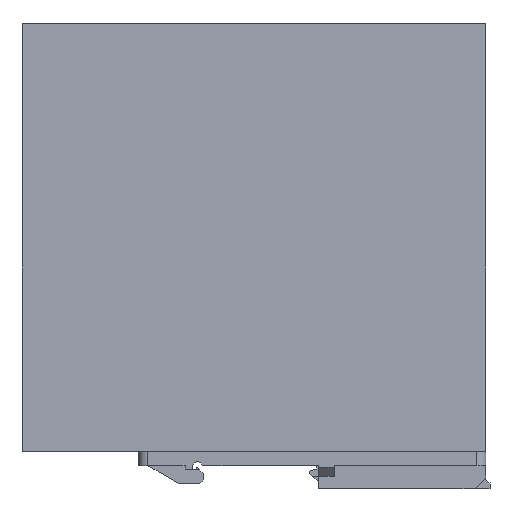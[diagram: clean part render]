
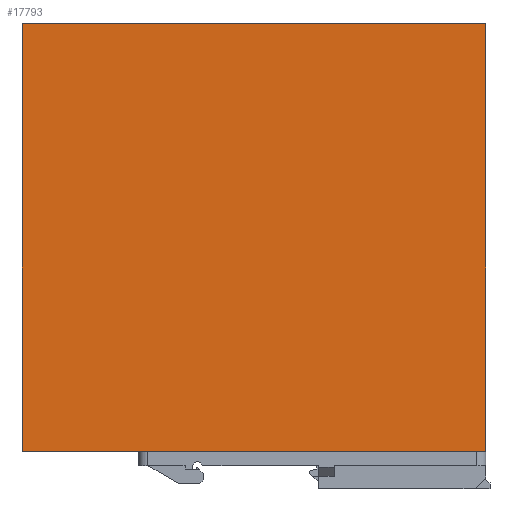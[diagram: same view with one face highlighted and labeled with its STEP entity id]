
A CAD part, left-side view. The second image highlights one B-rep face of the part: STEP entity #17793.
In plain terms, the highlighted planar face has unit normal (-1, 0, 0).
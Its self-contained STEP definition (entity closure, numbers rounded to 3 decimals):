
#17780=AXIS2_PLACEMENT_3D('Plane Axis2P3D',#17777,#17778,#17779) ;
#81=CARTESIAN_POINT('Vertex',(0.,131.2,130.35)) ;
#84=CARTESIAN_POINT('Line Origine',(0.,66.2,130.35)) ;
#88=CARTESIAN_POINT('Vertex',(0.,1.2,130.35)) ;
#211=CARTESIAN_POINT('Line Origine',(0.,1.2,70.4)) ;
#215=CARTESIAN_POINT('Vertex',(0.,1.2,10.45)) ;
#2385=CARTESIAN_POINT('Line Origine',(0.,66.2,10.45)) ;
#2389=CARTESIAN_POINT('Vertex',(0.,131.2,10.45)) ;
#17777=CARTESIAN_POINT('Axis2P3D Location',(0.,66.,-0.05)) ;
#17782=CARTESIAN_POINT('Line Origine',(0.,131.2,70.4)) ;
#85=DIRECTION('Vector Direction',(0.,-1.,0.)) ;
#212=DIRECTION('Vector Direction',(0.,0.,-1.)) ;
#2386=DIRECTION('Vector Direction',(0.,-1.,0.)) ;
#17778=DIRECTION('Axis2P3D Direction',(1.,0.,0.)) ;
#17779=DIRECTION('Axis2P3D XDirection',(0.,1.,0.)) ;
#17783=DIRECTION('Vector Direction',(0.,0.,1.)) ;
#86=VECTOR('Line Direction',#85,1.) ;
#213=VECTOR('Line Direction',#212,1.) ;
#2387=VECTOR('Line Direction',#2386,1.) ;
#17784=VECTOR('Line Direction',#17783,1.) ;
#17788=ORIENTED_EDGE('',*,*,#90,.T.) ;
#17789=ORIENTED_EDGE('',*,*,#17786,.F.) ;
#17790=ORIENTED_EDGE('',*,*,#2391,.F.) ;
#17791=ORIENTED_EDGE('',*,*,#217,.F.) ;
#17793=ADVANCED_FACE('STROMVERSORGUNG',(#17792),#17781,.F.) ;
#90=EDGE_CURVE('',#89,#82,#87,.F.) ;
#217=EDGE_CURVE('',#89,#216,#214,.T.) ;
#2391=EDGE_CURVE('',#216,#2390,#2388,.F.) ;
#17786=EDGE_CURVE('',#2390,#82,#17785,.T.) ;
#17787=EDGE_LOOP('',(#17788,#17789,#17790,#17791)) ;
#17792=FACE_OUTER_BOUND('',#17787,.T.) ;
#87=LINE('Line',#84,#86) ;
#214=LINE('Line',#211,#213) ;
#2388=LINE('Line',#2385,#2387) ;
#17785=LINE('Line',#17782,#17784) ;
#17781=PLANE('',#17780) ;
#82=VERTEX_POINT('',#81) ;
#89=VERTEX_POINT('',#88) ;
#216=VERTEX_POINT('',#215) ;
#2390=VERTEX_POINT('',#2389) ;
